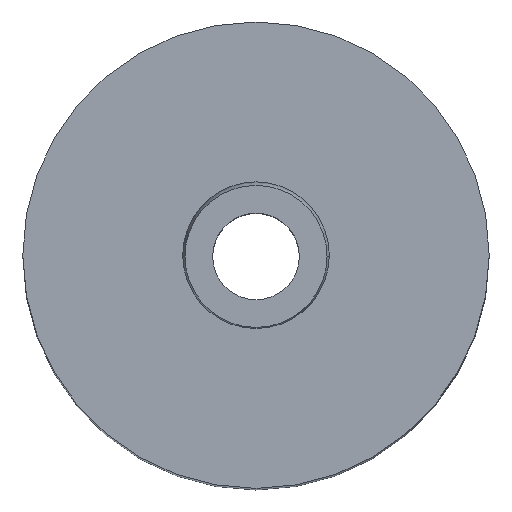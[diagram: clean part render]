
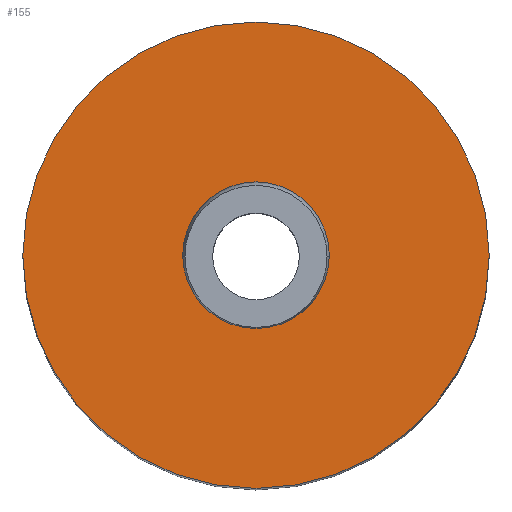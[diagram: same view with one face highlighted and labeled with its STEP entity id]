
A CAD part, top view. The second image highlights one B-rep face of the part: STEP entity #155.
In plain terms, the highlighted planar face has unit normal (0, 0, 1).
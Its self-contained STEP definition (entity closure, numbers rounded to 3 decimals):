
#155=ADVANCED_FACE('',(#179,#180),#174,.T.);
#174=PLANE('',#380);
#179=FACE_BOUND('',#189,.T.);
#180=FACE_BOUND('',#190,.T.);
#189=EDGE_LOOP('',(#213,#214));
#190=EDGE_LOOP('',(#215,#216));
#213=ORIENTED_EDGE('',*,*,#313,.T.);
#214=ORIENTED_EDGE('',*,*,#314,.T.);
#215=ORIENTED_EDGE('',*,*,#315,.F.);
#216=ORIENTED_EDGE('',*,*,#316,.F.);
#289=VERTEX_POINT('',#523);
#290=VERTEX_POINT('',#524);
#291=VERTEX_POINT('',#527);
#292=VERTEX_POINT('',#528);
#313=EDGE_CURVE('',#289,#290,#351,.T.);
#314=EDGE_CURVE('',#290,#289,#352,.T.);
#315=EDGE_CURVE('',#291,#292,#353,.T.);
#316=EDGE_CURVE('',#292,#291,#354,.T.);
#351=CIRCLE('',#376,35.);
#352=CIRCLE('',#377,35.);
#353=CIRCLE('',#378,11.);
#354=CIRCLE('',#379,11.);
#376=AXIS2_PLACEMENT_3D('',#522,#421,#422);
#377=AXIS2_PLACEMENT_3D('',#525,#423,#424);
#378=AXIS2_PLACEMENT_3D('',#526,#425,#426);
#379=AXIS2_PLACEMENT_3D('',#529,#427,#428);
#380=AXIS2_PLACEMENT_3D('',#530,#429,#430);
#421=DIRECTION('',(0.,0.,1.));
#422=DIRECTION('',(0.,1.,0.));
#423=DIRECTION('',(0.,0.,1.));
#424=DIRECTION('',(0.,-1.,0.));
#425=DIRECTION('',(0.,0.,1.));
#426=DIRECTION('',(0.,-1.,0.));
#427=DIRECTION('',(0.,0.,1.));
#428=DIRECTION('',(0.,1.,0.));
#429=DIRECTION('',(0.,0.,1.));
#430=DIRECTION('',(0.,1.,0.));
#522=CARTESIAN_POINT('',(0.,0.,140.));
#523=CARTESIAN_POINT('',(-35.,0.,140.));
#524=CARTESIAN_POINT('',(35.,0.,140.));
#525=CARTESIAN_POINT('',(0.,0.,140.));
#526=CARTESIAN_POINT('',(0.,0.,140.));
#527=CARTESIAN_POINT('',(11.,0.,140.));
#528=CARTESIAN_POINT('',(-11.,0.,140.));
#529=CARTESIAN_POINT('',(0.,0.,140.));
#530=CARTESIAN_POINT('',(0.,0.,140.));
